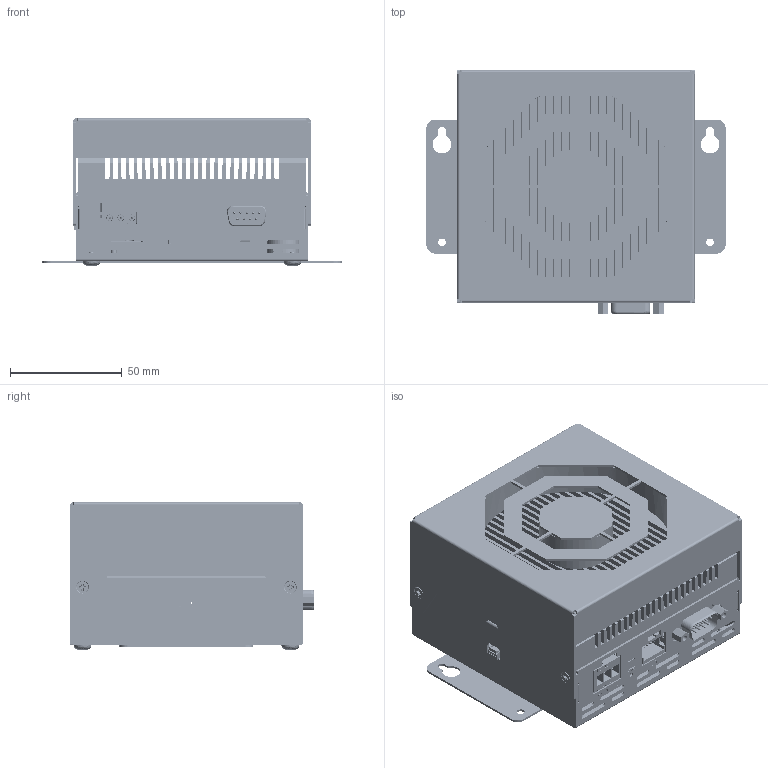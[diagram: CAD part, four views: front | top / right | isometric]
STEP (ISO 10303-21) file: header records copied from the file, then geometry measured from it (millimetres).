
FILE_DESCRIPTION((''),'2;1');
FILE_NAME('EC2A-010-F','2026-06-02T13:26:16',('gijyu181'),(''),'CREO PARAMETRIC BY PTC INC, 2018050','CREO PARAMETRIC BY PTC INC, 2018050','');
FILE_SCHEMA(('CONFIG_CONTROL_DESIGN','SHAPE_APPEARANCE_LAYERS_GROUPS'));
Products named in the file (1): EC2A-010-F
Bounding box: 134 x 108.97 x 66 mm (x, y, z)
Volume: 313812.8 mm3; surface area: 251520.5 mm2
Topology: 3 solids, 18 shells, 10555 faces, 31901 edges, 21052 vertices
Faces by surface type: plane 7219, cylinder 2658, extrusion 410, cone 180, bspline 65, torus 17, sphere 6
Entity records: 388807 total; most frequent: CARTESIAN_POINT 70394, ORIENTED_EDGE 63730, DIRECTION 56995, EDGE_CURVE 31881, VECTOR 25653, LINE 25243, VERTEX_POINT 21052, AXIS2_PLACEMENT_3D 15671
